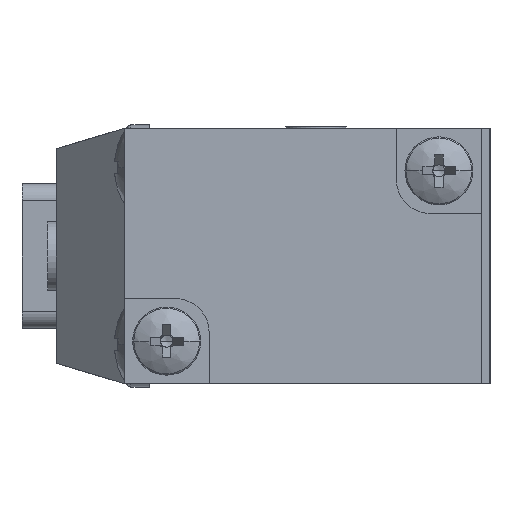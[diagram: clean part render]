
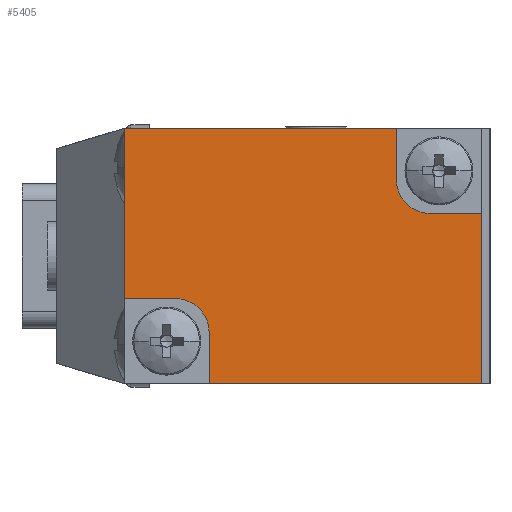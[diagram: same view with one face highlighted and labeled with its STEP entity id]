
A CAD part, left-side view. The second image highlights one B-rep face of the part: STEP entity #5405.
In plain terms, the highlighted planar face has unit normal (-1, 0, 0).
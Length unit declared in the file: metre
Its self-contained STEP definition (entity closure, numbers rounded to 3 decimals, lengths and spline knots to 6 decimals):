
#456 = DIRECTION ( 'NONE',  ( 0., 1., 0. ) ) ;
#462 = ORIENTED_EDGE ( 'NONE', *, *, #10249, .T. ) ;
#616 = EDGE_CURVE ( 'NONE', #1668, #4578, #5654, .T. ) ;
#681 = CARTESIAN_POINT ( 'NONE',  ( -0.009, 0.016, -0.0045 ) ) ;
#1009 = LINE ( 'NONE', #4364, #7059 ) ;
#1049 = ORIENTED_EDGE ( 'NONE', *, *, #616, .T. ) ;
#1201 = CARTESIAN_POINT ( 'NONE',  ( -0.009, 0.005, 0.0045 ) ) ;
#1310 = VECTOR ( 'NONE', #9638, 1. ) ;
#1420 = CARTESIAN_POINT ( 'NONE',  ( -0.009, 0.021, 0.0075 ) ) ;
#1559 = VECTOR ( 'NONE', #4454, 1. ) ;
#1668 = VERTEX_POINT ( 'NONE', #1201 ) ;
#1670 = CARTESIAN_POINT ( 'NONE',  ( -0.009, 0.003, 0.0025 ) ) ;
#1817 = LINE ( 'NONE', #4443, #1559 ) ;
#1997 = EDGE_CURVE ( 'NONE', #9448, #9568, #1817, .T. ) ;
#2524 = EDGE_CURVE ( 'NONE', #9568, #4474, #7336, .T. ) ;
#2619 = ORIENTED_EDGE ( 'NONE', *, *, #4724, .F. ) ;
#2801 = CARTESIAN_POINT ( 'NONE',  ( -0.009, 0.005, 0.0075 ) ) ;
#2957 = VERTEX_POINT ( 'NONE', #9681 ) ;
#2981 = EDGE_LOOP ( 'NONE', ( #3568, #3013, #1049, #462, #9560, #2619, #4810, #9754, #4643, #7942 ) ) ;
#3013 = ORIENTED_EDGE ( 'NONE', *, *, #3885, .F. ) ;
#3568 = ORIENTED_EDGE ( 'NONE', *, *, #7089, .T. ) ;
#3727 = AXIS2_PLACEMENT_3D ( 'NONE', #6611, #6669, #6704 ) ;
#3817 = CARTESIAN_POINT ( 'NONE',  ( -0.009, 0.021, -0.0025 ) ) ;
#3885 = EDGE_CURVE ( 'NONE', #1668, #5578, #7198, .T. ) ;
#3898 = VECTOR ( 'NONE', #5860, 1. ) ;
#4364 = CARTESIAN_POINT ( 'NONE',  ( -0.009, 0.0105, -0.0025 ) ) ;
#4416 = VECTOR ( 'NONE', #6173, 1. ) ;
#4443 = CARTESIAN_POINT ( 'NONE',  ( -0.009, 0.0105, -0.0075 ) ) ;
#4454 = DIRECTION ( 'NONE',  ( 0., 1., 0. ) ) ;
#4474 = VERTEX_POINT ( 'NONE', #681 ) ;
#4477 = FACE_OUTER_BOUND ( 'NONE', #2981, .T. ) ;
#4480 = DIRECTION ( 'NONE',  ( 0., 1., 0. ) ) ;
#4578 = VERTEX_POINT ( 'NONE', #2801 ) ;
#4642 = AXIS2_PLACEMENT_3D ( 'NONE', #4843, #6056, #6072 ) ;
#4643 = ORIENTED_EDGE ( 'NONE', *, *, #1997, .F. ) ;
#4724 = EDGE_CURVE ( 'NONE', #6724, #8750, #1009, .T. ) ;
#4810 = ORIENTED_EDGE ( 'NONE', *, *, #6028, .F. ) ;
#4843 = CARTESIAN_POINT ( 'NONE',  ( -0.009, 0., 0.0075 ) ) ;
#4994 = PLANE ( 'NONE',  #4642 ) ;
#5101 = CARTESIAN_POINT ( 'NONE',  ( -0.009, 0., -0.0075 ) ) ;
#5342 = VECTOR ( 'NONE', #456, 1. ) ;
#5343 = CARTESIAN_POINT ( 'NONE',  ( -0.009, 0.016, -0.0075 ) ) ;
#5405 = ADVANCED_FACE ( 'NONE', ( #4477 ), #4994, .F. ) ;
#5560 = CIRCLE ( 'NONE', #3727, 0.002 ) ;
#5578 = VERTEX_POINT ( 'NONE', #1670 ) ;
#5654 = LINE ( 'NONE', #6571, #9920 ) ;
#5746 = CARTESIAN_POINT ( 'NONE',  ( -0.009, 0.0015, 0.0025 ) ) ;
#5860 = DIRECTION ( 'NONE',  ( 0., 0., -1. ) ) ;
#6002 = CARTESIAN_POINT ( 'NONE',  ( -0.009, 0.0105, 0.0075 ) ) ;
#6011 = EDGE_CURVE ( 'NONE', #9448, #2957, #7683, .T. ) ;
#6028 = EDGE_CURVE ( 'NONE', #4474, #6724, #5560, .T. ) ;
#6056 = DIRECTION ( 'NONE',  ( 1., 0., 0. ) ) ;
#6072 = DIRECTION ( 'NONE',  ( 0., 0., -1. ) ) ;
#6146 = DIRECTION ( 'NONE',  ( 0., 0., 1. ) ) ;
#6173 = DIRECTION ( 'NONE',  ( 0., 1., 0. ) ) ;
#6467 = CARTESIAN_POINT ( 'NONE',  ( -0.009, 0., 0. ) ) ;
#6483 = LINE ( 'NONE', #5746, #4416 ) ;
#6542 = DIRECTION ( 'NONE',  ( 0., 0., 1. ) ) ;
#6571 = CARTESIAN_POINT ( 'NONE',  ( -0.009, 0.005, 0.006 ) ) ;
#6611 = CARTESIAN_POINT ( 'NONE',  ( -0.009, 0.018, -0.0045 ) ) ;
#6669 = DIRECTION ( 'NONE',  ( -1., 0., 0. ) ) ;
#6704 = DIRECTION ( 'NONE',  ( 0., 0., -1. ) ) ;
#6724 = VERTEX_POINT ( 'NONE', #8105 ) ;
#7014 = VERTEX_POINT ( 'NONE', #1420 ) ;
#7059 = VECTOR ( 'NONE', #4480, 1. ) ;
#7089 = EDGE_CURVE ( 'NONE', #2957, #5578, #6483, .T. ) ;
#7198 = CIRCLE ( 'NONE', #7957, 0.002 ) ;
#7336 = LINE ( 'NONE', #9619, #1310 ) ;
#7683 = LINE ( 'NONE', #6467, #9824 ) ;
#7942 = ORIENTED_EDGE ( 'NONE', *, *, #6011, .T. ) ;
#7957 = AXIS2_PLACEMENT_3D ( 'NONE', #9176, #9220, #9233 ) ;
#8105 = CARTESIAN_POINT ( 'NONE',  ( -0.009, 0.018, -0.0025 ) ) ;
#8750 = VERTEX_POINT ( 'NONE', #3817 ) ;
#8760 = EDGE_CURVE ( 'NONE', #7014, #8750, #10261, .T. ) ;
#9072 = CARTESIAN_POINT ( 'NONE',  ( -0.009, 0.021, 0. ) ) ;
#9176 = CARTESIAN_POINT ( 'NONE',  ( -0.009, 0.003, 0.0045 ) ) ;
#9220 = DIRECTION ( 'NONE',  ( -1., 0., 0. ) ) ;
#9233 = DIRECTION ( 'NONE',  ( 0., 0., -1. ) ) ;
#9364 = LINE ( 'NONE', #6002, #5342 ) ;
#9448 = VERTEX_POINT ( 'NONE', #5101 ) ;
#9560 = ORIENTED_EDGE ( 'NONE', *, *, #8760, .T. ) ;
#9568 = VERTEX_POINT ( 'NONE', #5343 ) ;
#9619 = CARTESIAN_POINT ( 'NONE',  ( -0.009, 0.016, 0. ) ) ;
#9638 = DIRECTION ( 'NONE',  ( 0., 0., 1. ) ) ;
#9681 = CARTESIAN_POINT ( 'NONE',  ( -0.009, 0., 0.0025 ) ) ;
#9754 = ORIENTED_EDGE ( 'NONE', *, *, #2524, .F. ) ;
#9824 = VECTOR ( 'NONE', #6542, 1. ) ;
#9920 = VECTOR ( 'NONE', #6146, 1. ) ;
#10249 = EDGE_CURVE ( 'NONE', #4578, #7014, #9364, .T. ) ;
#10261 = LINE ( 'NONE', #9072, #3898 ) ;
